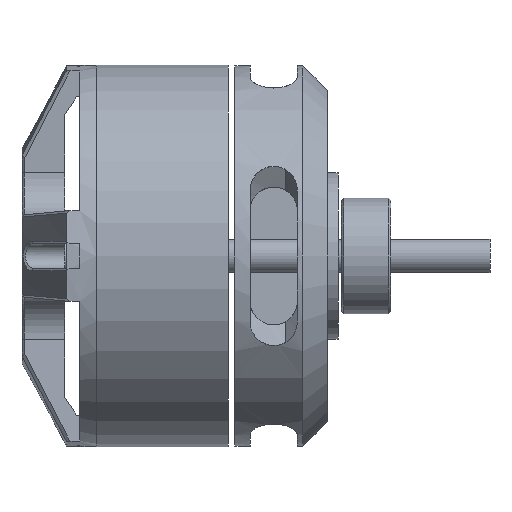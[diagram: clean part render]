
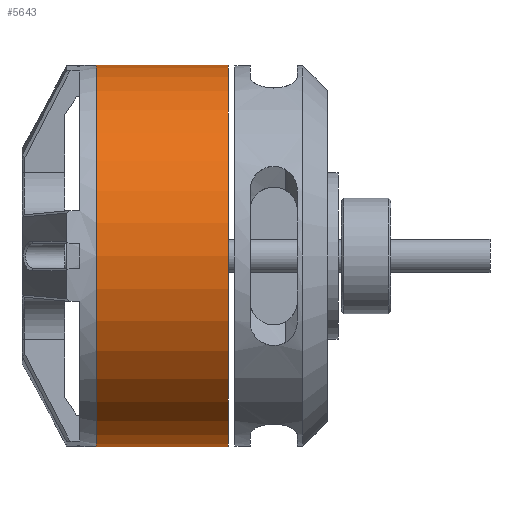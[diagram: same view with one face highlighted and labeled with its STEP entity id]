
A CAD part, left-side view. The second image highlights one B-rep face of the part: STEP entity #5643.
In plain terms, the highlighted cylindrical face has radius 11.55 mm (diameter 23.1 mm), a partial arc.
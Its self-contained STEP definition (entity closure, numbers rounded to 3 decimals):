
#51 = VERTEX_POINT ( 'NONE', #8331 ) ;
#146 = CIRCLE ( 'NONE', #9685, 11.55 ) ;
#391 = CIRCLE ( 'NONE', #9590, 11.55 ) ;
#700 = LINE ( 'NONE', #1291, #8065 ) ;
#1291 = CARTESIAN_POINT ( 'NONE',  ( 0., 8., 11.55 ) ) ;
#1346 = VECTOR ( 'NONE', #9524, 1000. ) ;
#1959 = DIRECTION ( 'NONE',  ( 0., -1., 0. ) ) ;
#2069 = EDGE_CURVE ( 'NONE', #51, #7248, #700, .T. ) ;
#2838 = DIRECTION ( 'NONE',  ( 0., -1., 0. ) ) ;
#2922 = ORIENTED_EDGE ( 'NONE', *, *, #3752, .T. ) ;
#3259 = CYLINDRICAL_SURFACE ( 'NONE', #3499, 11.55 ) ;
#3369 = CARTESIAN_POINT ( 'NONE',  ( 0., 0., 11.55 ) ) ;
#3499 = AXIS2_PLACEMENT_3D ( 'NONE', #8802, #7276, #4132 ) ;
#3536 = ORIENTED_EDGE ( 'NONE', *, *, #2069, .F. ) ;
#3556 = DIRECTION ( 'NONE',  ( 0., -1., 0. ) ) ;
#3752 = EDGE_CURVE ( 'NONE', #51, #5402, #391, .T. ) ;
#3762 = FACE_OUTER_BOUND ( 'NONE', #7525, .T. ) ;
#3936 = ORIENTED_EDGE ( 'NONE', *, *, #6432, .F. ) ;
#4132 = DIRECTION ( 'NONE',  ( 0., 0., -1. ) ) ;
#4862 = LINE ( 'NONE', #8673, #1346 ) ;
#4879 = CARTESIAN_POINT ( 'NONE',  ( 0., 0., -11.55 ) ) ;
#5147 = EDGE_CURVE ( 'NONE', #5402, #5697, #4862, .T. ) ;
#5402 = VERTEX_POINT ( 'NONE', #7744 ) ;
#5643 = ADVANCED_FACE ( 'NONE', ( #3762 ), #3259, .T. ) ;
#5697 = VERTEX_POINT ( 'NONE', #4879 ) ;
#6432 = EDGE_CURVE ( 'NONE', #7248, #5697, #146, .T. ) ;
#6599 = CARTESIAN_POINT ( 'NONE',  ( 0., 8., 0. ) ) ;
#6709 = DIRECTION ( 'NONE',  ( 0., 0., -1. ) ) ;
#7248 = VERTEX_POINT ( 'NONE', #3369 ) ;
#7276 = DIRECTION ( 'NONE',  ( 0., -1., 0. ) ) ;
#7492 = CARTESIAN_POINT ( 'NONE',  ( 0., 0., 0. ) ) ;
#7525 = EDGE_LOOP ( 'NONE', ( #3536, #2922, #7963, #3936 ) ) ;
#7744 = CARTESIAN_POINT ( 'NONE',  ( 0., 8., -11.55 ) ) ;
#7963 = ORIENTED_EDGE ( 'NONE', *, *, #5147, .T. ) ;
#8065 = VECTOR ( 'NONE', #2838, 1000. ) ;
#8331 = CARTESIAN_POINT ( 'NONE',  ( 0., 8., 11.55 ) ) ;
#8673 = CARTESIAN_POINT ( 'NONE',  ( 0., 8., -11.55 ) ) ;
#8802 = CARTESIAN_POINT ( 'NONE',  ( 0., 8., 0. ) ) ;
#9054 = DIRECTION ( 'NONE',  ( 0., 0., -1. ) ) ;
#9524 = DIRECTION ( 'NONE',  ( 0., -1., 0. ) ) ;
#9590 = AXIS2_PLACEMENT_3D ( 'NONE', #6599, #1959, #6709 ) ;
#9685 = AXIS2_PLACEMENT_3D ( 'NONE', #7492, #3556, #9054 ) ;
